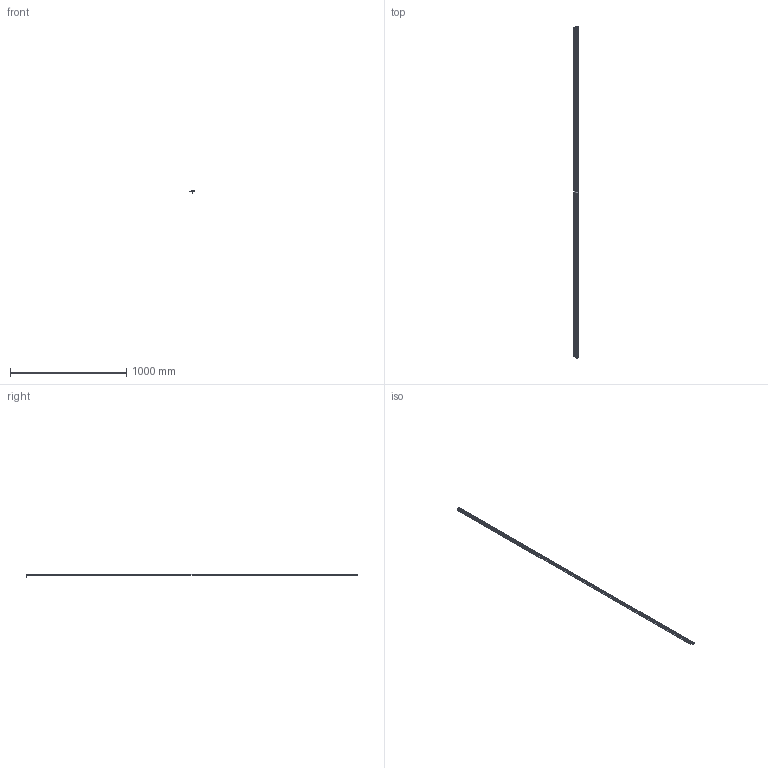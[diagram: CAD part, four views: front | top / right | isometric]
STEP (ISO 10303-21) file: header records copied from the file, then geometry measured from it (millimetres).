
FILE_DESCRIPTION (( 'STEP AP214' ), '1' );
FILE_NAME ('ILGA-L-K1a-2850mm.STEP', '2026-04-24T23:11:07', ( '' ), ( '' ), 'SwSTEP 2.0', 'SolidWorks 2025', '' );
FILE_SCHEMA (( 'AUTOMOTIVE_DESIGN' ));
Length unit declared in the file: millimetre
Products named in the file (1): ILGA-L-K1a-2850mm
Bounding box: 35 x 2850 x 34.2 mm (x, y, z)
Volume: 294960.7 mm3; surface area: 438332.1 mm2
Topology: 9 solids, 9 shells, 684 faces, 1778 edges, 1086 vertices
Faces by surface type: plane 293, cylinder 247, cone 60, torus 44, bspline 24, sphere 16
Entity records: 28741 total; most frequent: CARTESIAN_POINT 4449, DIRECTION 3632, ORIENTED_EDGE 3468, EDGE_CURVE 1734, AXIS2_PLACEMENT_3D 1357, VERTEX_POINT 1086, VECTOR 918, LINE 918
